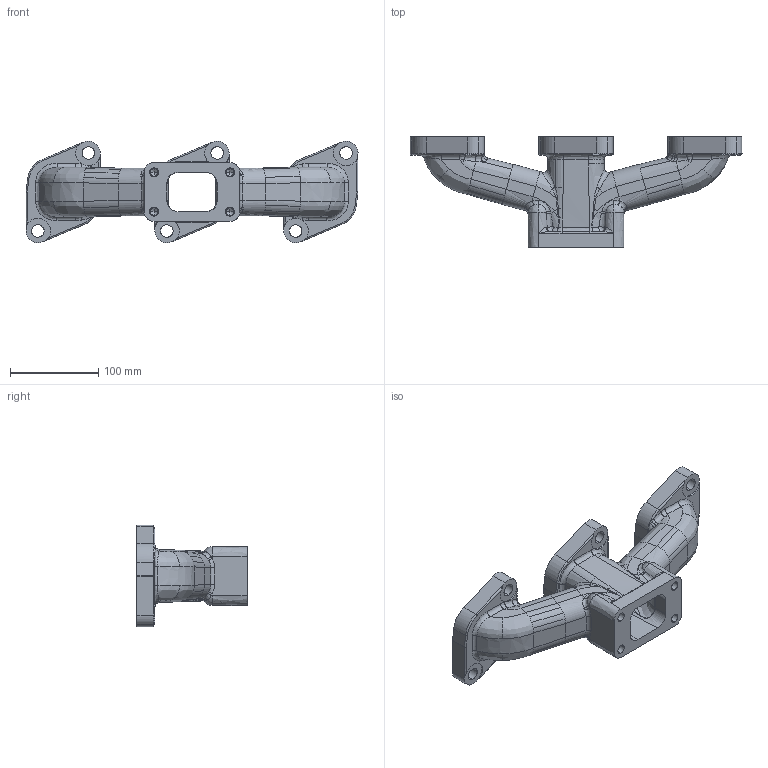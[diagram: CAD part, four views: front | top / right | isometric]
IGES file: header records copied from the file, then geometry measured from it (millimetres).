
Start section: DesignModeler IGES Output Version 5.3
Global section: file name: NoName; native system:  By UGS Corp.; preprocessor: XPlus GENERIC/IGES 3.0; author: gjstofan; organization:  ; date: 20080808.150541; units: metre
Bounding box: 376.17 x 125.02 x 115.25 mm (x, y, z)
Volume: 689965.3 mm3; surface area: 188879.7 mm2
Topology: 1 solids, 1 shells, 581 faces, 1675 edges, 1061 vertices
Faces by surface type: bspline 581
